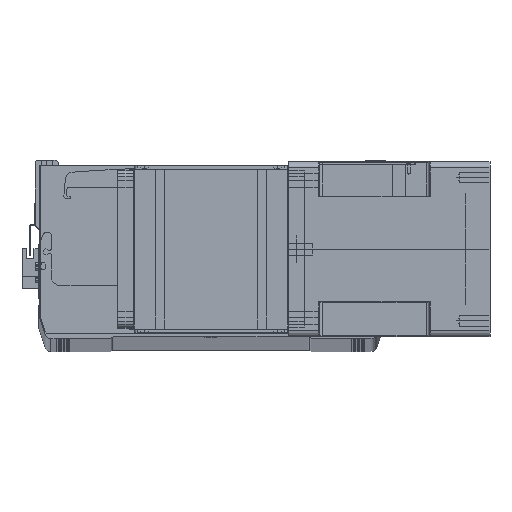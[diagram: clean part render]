
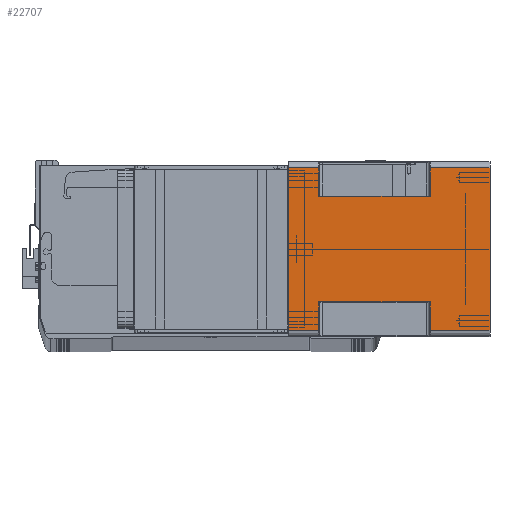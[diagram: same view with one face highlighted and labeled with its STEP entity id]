
A CAD part, top view. The second image highlights one B-rep face of the part: STEP entity #22707.
In plain terms, the highlighted planar face has unit normal (0, 0, 1) as drawn and (1, 0, 0) by its records, which use the part's own axes.
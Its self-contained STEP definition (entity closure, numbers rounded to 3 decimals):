
#82 = CARTESIAN_POINT ( 'NONE',  ( 71., -66., -164. ) ) ;
#603 = DIRECTION ( 'NONE',  ( 0., 1., 0. ) ) ;
#981 = VERTEX_POINT ( 'NONE', #12027 ) ;
#1350 = VECTOR ( 'NONE', #34605, 1000. ) ;
#1863 = CARTESIAN_POINT ( 'NONE',  ( 71., -43., -115.5 ) ) ;
#1900 = EDGE_CURVE ( 'NONE', #31447, #32768, #38537, .T. ) ;
#2636 = LINE ( 'NONE', #4710, #39586 ) ;
#2662 = AXIS2_PLACEMENT_3D ( 'NONE', #82, #23211, #3140 ) ;
#3140 = DIRECTION ( 'NONE',  ( 0., 1., 0. ) ) ;
#3146 = VECTOR ( 'NONE', #37812, 1000. ) ;
#3234 = VERTEX_POINT ( 'NONE', #20885 ) ;
#3434 = PLANE ( 'NONE',  #2662 ) ;
#3669 = VERTEX_POINT ( 'NONE', #17276 ) ;
#3675 = CARTESIAN_POINT ( 'NONE',  ( 71., -66., -164. ) ) ;
#3783 = VERTEX_POINT ( 'NONE', #1863 ) ;
#4301 = CARTESIAN_POINT ( 'NONE',  ( 71., -43., -164. ) ) ;
#4710 = CARTESIAN_POINT ( 'NONE',  ( 71., -66., 0. ) ) ;
#5122 = LINE ( 'NONE', #8297, #14883 ) ;
#5333 = LINE ( 'NONE', #34773, #9937 ) ;
#7905 = ORIENTED_EDGE ( 'NONE', *, *, #34669, .T. ) ;
#8297 = CARTESIAN_POINT ( 'NONE',  ( 71., -66., -164. ) ) ;
#9937 = VECTOR ( 'NONE', #38326, 1000. ) ;
#10788 = ORIENTED_EDGE ( 'NONE', *, *, #14487, .T. ) ;
#10910 = LINE ( 'NONE', #20587, #11945 ) ;
#11638 = CARTESIAN_POINT ( 'NONE',  ( 71., -66., -115.5 ) ) ;
#11945 = VECTOR ( 'NONE', #603, 1000. ) ;
#12027 = CARTESIAN_POINT ( 'NONE',  ( 71., 66., -164. ) ) ;
#12290 = CARTESIAN_POINT ( 'NONE',  ( 71., -43., -24.5 ) ) ;
#12663 = EDGE_LOOP ( 'NONE', ( #41976, #38151, #37254, #12747, #31307, #7905, #41600, #33732, #10788, #17710, #34173, #32120 ) ) ;
#12747 = ORIENTED_EDGE ( 'NONE', *, *, #22323, .T. ) ;
#13005 = CARTESIAN_POINT ( 'NONE',  ( 71., 43., -164. ) ) ;
#13110 = VECTOR ( 'NONE', #36114, 1000. ) ;
#13788 = VECTOR ( 'NONE', #24533, 1000. ) ;
#14487 = EDGE_CURVE ( 'NONE', #3669, #31335, #19287, .T. ) ;
#14883 = VECTOR ( 'NONE', #34816, 1000. ) ;
#14914 = CARTESIAN_POINT ( 'NONE',  ( 71., -66., -164. ) ) ;
#15201 = LINE ( 'NONE', #29518, #13110 ) ;
#16117 = EDGE_CURVE ( 'NONE', #3783, #40966, #22968, .T. ) ;
#16339 = DIRECTION ( 'NONE',  ( 0., 0., -1. ) ) ;
#17276 = CARTESIAN_POINT ( 'NONE',  ( 71., 66., -24.5 ) ) ;
#17710 = ORIENTED_EDGE ( 'NONE', *, *, #20646, .F. ) ;
#19287 = LINE ( 'NONE', #30999, #41833 ) ;
#20587 = CARTESIAN_POINT ( 'NONE',  ( 71., -43., -24.5 ) ) ;
#20646 = EDGE_CURVE ( 'NONE', #32768, #31335, #2636, .T. ) ;
#20885 = CARTESIAN_POINT ( 'NONE',  ( 71., 66., -115.5 ) ) ;
#21061 = VERTEX_POINT ( 'NONE', #3675 ) ;
#21916 = CARTESIAN_POINT ( 'NONE',  ( 71., -66., -115.5 ) ) ;
#21929 = FACE_OUTER_BOUND ( 'NONE', #12663, .T. ) ;
#22004 = EDGE_CURVE ( 'NONE', #21061, #40966, #5122, .T. ) ;
#22323 = EDGE_CURVE ( 'NONE', #21061, #981, #34339, .T. ) ;
#22707 = ADVANCED_FACE ( 'NONE', ( #21929 ), #3434, .T. ) ;
#22968 = LINE ( 'NONE', #11638, #1350 ) ;
#23211 = DIRECTION ( 'NONE',  ( 1., 0., 0. ) ) ;
#23582 = LINE ( 'NONE', #13005, #31264 ) ;
#23711 = LINE ( 'NONE', #4301, #37034 ) ;
#24090 = EDGE_CURVE ( 'NONE', #38276, #26184, #23582, .T. ) ;
#24533 = DIRECTION ( 'NONE',  ( 0., 1., 0. ) ) ;
#25479 = VECTOR ( 'NONE', #32547, 1000. ) ;
#26184 = VERTEX_POINT ( 'NONE', #42185 ) ;
#26963 = CARTESIAN_POINT ( 'NONE',  ( 71., -66., -24.5 ) ) ;
#27274 = DIRECTION ( 'NONE',  ( 0., 0., 1. ) ) ;
#27713 = CARTESIAN_POINT ( 'NONE',  ( 71., -66., -164. ) ) ;
#29263 = VERTEX_POINT ( 'NONE', #12290 ) ;
#29518 = CARTESIAN_POINT ( 'NONE',  ( 71., -66., -24.5 ) ) ;
#29567 = EDGE_CURVE ( 'NONE', #31447, #29263, #10910, .T. ) ;
#30999 = CARTESIAN_POINT ( 'NONE',  ( 71., 66., -164. ) ) ;
#31264 = VECTOR ( 'NONE', #16339, 1000. ) ;
#31287 = DIRECTION ( 'NONE',  ( 0., 0., 1. ) ) ;
#31307 = ORIENTED_EDGE ( 'NONE', *, *, #36278, .T. ) ;
#31335 = VERTEX_POINT ( 'NONE', #42160 ) ;
#31447 = VERTEX_POINT ( 'NONE', #26963 ) ;
#32120 = ORIENTED_EDGE ( 'NONE', *, *, #29567, .T. ) ;
#32547 = DIRECTION ( 'NONE',  ( 0., -1., 0. ) ) ;
#32768 = VERTEX_POINT ( 'NONE', #41572 ) ;
#33732 = ORIENTED_EDGE ( 'NONE', *, *, #39093, .T. ) ;
#34173 = ORIENTED_EDGE ( 'NONE', *, *, #1900, .F. ) ;
#34276 = DIRECTION ( 'NONE',  ( 0., 1., 0. ) ) ;
#34339 = LINE ( 'NONE', #27713, #13788 ) ;
#34605 = DIRECTION ( 'NONE',  ( 0., -1., 0. ) ) ;
#34669 = EDGE_CURVE ( 'NONE', #3234, #26184, #41372, .T. ) ;
#34773 = CARTESIAN_POINT ( 'NONE',  ( 71., 66., -164. ) ) ;
#34816 = DIRECTION ( 'NONE',  ( 0., 0., 1. ) ) ;
#36114 = DIRECTION ( 'NONE',  ( 0., 1., 0. ) ) ;
#36278 = EDGE_CURVE ( 'NONE', #981, #3234, #5333, .T. ) ;
#36550 = EDGE_CURVE ( 'NONE', #3783, #29263, #23711, .T. ) ;
#37034 = VECTOR ( 'NONE', #27274, 1000. ) ;
#37086 = CARTESIAN_POINT ( 'NONE',  ( 71., 43., -24.5 ) ) ;
#37254 = ORIENTED_EDGE ( 'NONE', *, *, #22004, .F. ) ;
#37812 = DIRECTION ( 'NONE',  ( 0., 0., 1. ) ) ;
#38151 = ORIENTED_EDGE ( 'NONE', *, *, #16117, .T. ) ;
#38276 = VERTEX_POINT ( 'NONE', #37086 ) ;
#38326 = DIRECTION ( 'NONE',  ( 0., 0., 1. ) ) ;
#38537 = LINE ( 'NONE', #14914, #3146 ) ;
#39093 = EDGE_CURVE ( 'NONE', #38276, #3669, #15201, .T. ) ;
#39385 = CARTESIAN_POINT ( 'NONE',  ( 71., 43., -115.5 ) ) ;
#39586 = VECTOR ( 'NONE', #34276, 1000. ) ;
#40966 = VERTEX_POINT ( 'NONE', #21916 ) ;
#41372 = LINE ( 'NONE', #39385, #25479 ) ;
#41572 = CARTESIAN_POINT ( 'NONE',  ( 71., -66., 0. ) ) ;
#41600 = ORIENTED_EDGE ( 'NONE', *, *, #24090, .F. ) ;
#41833 = VECTOR ( 'NONE', #31287, 1000. ) ;
#41976 = ORIENTED_EDGE ( 'NONE', *, *, #36550, .F. ) ;
#42160 = CARTESIAN_POINT ( 'NONE',  ( 71., 66., 0. ) ) ;
#42185 = CARTESIAN_POINT ( 'NONE',  ( 71., 43., -115.5 ) ) ;
